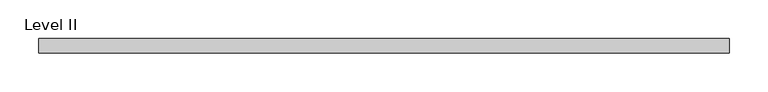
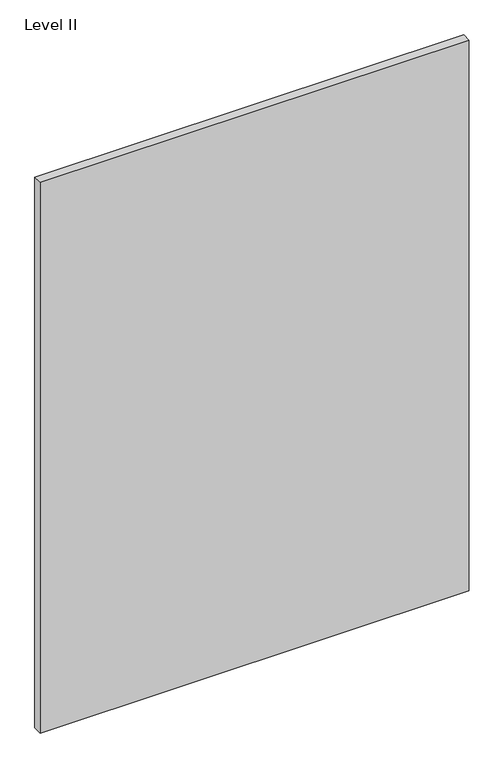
"""IFC4 building model written with IfcOpenShell, lengths in millimetres: proxy geometry, Panel-Fascia-Teknion-Altos-Standard : Level II."""

from ifc_helpers import new_model, si_unit, frame, origin, place, context, project, spatial, polyline, outline, extrude, source, transform, mapped, element, save


def level_ii_d9937d3a(model_context):
    return source(origin(), model_context, "Body", "SweptSolid", [
        extrude(outline(polyline([(447.0300781, 9.525), (447.0300781, -9.525), (-447.0300781, -9.525), (-447.0300781, 9.525), (447.0300781, 9.525)])), frame((0.0, 0.0, 3.175), z_axis=(0.0, 0.0, 1.0), x_axis=(1.0, 0.0, 0.0)), (0.0, 0.0, 1.0), 1212.85),
    ])


if __name__ == "__main__":
    model = new_model("IFC4")
    model_context = context("Model", 3, world=origin())
    ifc_project = project(units=[si_unit("LENGTHUNIT", "METRE", prefix="MILLI")], contexts=[model_context])
    site = spatial("IfcSite", under=ifc_project)
    building = spatial("IfcBuilding", under=site)
    placement = place(None, origin())
    level_ii_shape = level_ii_d9937d3a(model_context)
    element("IfcBuildingElementProxy", 1, Name="Panel-Fascia-Teknion-Altos-Standard : Level II", ObjectType="Panel-Fascia-Teknion-Altos-Standard : Level II", at=placement, inside=building, context=model_context, shape_type="MappedRepresentation", body=[
        mapped(level_ii_shape, transform((0.0, 0.0, 0.0), x_axis=(1.0, 0.0, 0.0), y_axis=(0.0, 1.0, 0.0), z_axis=(0.0, 0.0, 1.0))),
    ])
    save(model, "model.ifc")
